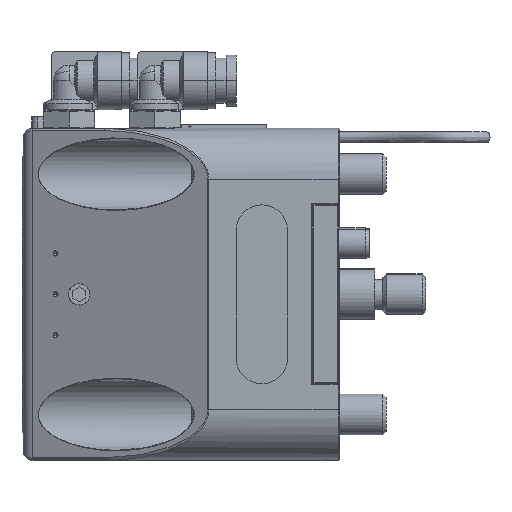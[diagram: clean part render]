
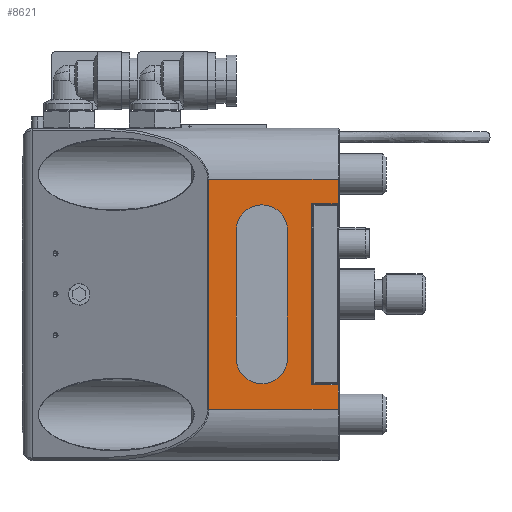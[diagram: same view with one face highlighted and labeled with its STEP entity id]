
A CAD part, left-side view. The second image highlights one B-rep face of the part: STEP entity #8621.
In plain terms, the highlighted planar face has unit normal (-1, 0, 0).
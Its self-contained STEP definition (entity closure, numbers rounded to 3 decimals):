
#277 = EDGE_CURVE ( 'NONE', #4738, #30587, #31643, .T. ) ;
#690 = VECTOR ( 'NONE', #11150, 1000. ) ;
#1051 = CARTESIAN_POINT ( 'NONE',  ( -128.699, 109.76, 192.392 ) ) ;
#1355 = VECTOR ( 'NONE', #6429, 1000. ) ;
#1632 = CARTESIAN_POINT ( 'NONE',  ( -128.699, 89.613, 177.392 ) ) ;
#2190 = CARTESIAN_POINT ( 'NONE',  ( -128.699, 84.513, 177.592 ) ) ;
#2274 = EDGE_CURVE ( 'NONE', #15999, #63976, #49450, .T. ) ;
#2372 = EDGE_CURVE ( 'NONE', #63976, #8853, #5352, .T. ) ;
#2818 = DIRECTION ( 'NONE',  ( 0., 1., 0. ) ) ;
#3380 = EDGE_CURVE ( 'NONE', #34692, #69836, #10297, .T. ) ;
#3693 = PLANE ( 'NONE',  #58207 ) ;
#4037 = EDGE_CURVE ( 'NONE', #58673, #69029, #67741, .T. ) ;
#4444 = DIRECTION ( 'NONE',  ( 0., 0., 1. ) ) ;
#4738 = VERTEX_POINT ( 'NONE', #41550 ) ;
#5352 = LINE ( 'NONE', #36554, #16254 ) ;
#5501 = CARTESIAN_POINT ( 'NONE',  ( -128.699, 89.613, 177.592 ) ) ;
#6026 = AXIS2_PLACEMENT_3D ( 'NONE', #11358, #43662, #32929 ) ;
#6039 = ORIENTED_EDGE ( 'NONE', *, *, #58706, .T. ) ;
#6429 = DIRECTION ( 'NONE',  ( 0., 0., -1. ) ) ;
#6939 = EDGE_LOOP ( 'NONE', ( #43031, #56924, #26788, #6039, #57733, #52470, #8135, #69683 ) ) ;
#7796 = EDGE_CURVE ( 'NONE', #66089, #42229, #25242, .T. ) ;
#8105 = AXIS2_PLACEMENT_3D ( 'NONE', #24006, #40126, #12830 ) ;
#8124 = CARTESIAN_POINT ( 'NONE',  ( -128.699, 84.313, 192.392 ) ) ;
#8135 = ORIENTED_EDGE ( 'NONE', *, *, #7796, .T. ) ;
#8621 = ADVANCED_FACE ( 'NONE', ( #19991, #48051 ), #3693, .F. ) ;
#8631 = EDGE_CURVE ( 'NONE', #32392, #15999, #11506, .T. ) ;
#8853 = VERTEX_POINT ( 'NONE', #48877 ) ;
#8989 = EDGE_CURVE ( 'NONE', #30587, #58673, #26719, .T. ) ;
#10297 = LINE ( 'NONE', #33649, #49300 ) ;
#10332 = DIRECTION ( 'NONE',  ( 0., 0., 1. ) ) ;
#11150 = DIRECTION ( 'NONE',  ( 0., -1., 0. ) ) ;
#11358 = CARTESIAN_POINT ( 'NONE',  ( -128.699, 99.413, 172.392 ) ) ;
#11380 = VECTOR ( 'NONE', #4444, 1000. ) ;
#11506 = LINE ( 'NONE', #13549, #54777 ) ;
#12309 = EDGE_LOOP ( 'NONE', ( #44214, #22487, #22070, #21682, #19128 ) ) ;
#12830 = DIRECTION ( 'NONE',  ( 0., 0., 1. ) ) ;
#13549 = CARTESIAN_POINT ( 'NONE',  ( -128.699, 104.413, 147.392 ) ) ;
#14648 = CIRCLE ( 'NONE', #29568, 5. ) ;
#15185 = CARTESIAN_POINT ( 'NONE',  ( -128.699, 84.513, 142.192 ) ) ;
#15599 = CARTESIAN_POINT ( 'NONE',  ( -128.699, 109.76, 182.392 ) ) ;
#15999 = VERTEX_POINT ( 'NONE', #28620 ) ;
#16254 = VECTOR ( 'NONE', #25667, 1000. ) ;
#16788 = CARTESIAN_POINT ( 'NONE',  ( -128.699, 84.313, 177.592 ) ) ;
#18330 = DIRECTION ( 'NONE',  ( -1., 0., 0. ) ) ;
#19128 = ORIENTED_EDGE ( 'NONE', *, *, #46866, .F. ) ;
#19331 = CARTESIAN_POINT ( 'NONE',  ( -128.699, 94.413, 147.392 ) ) ;
#19915 = EDGE_CURVE ( 'NONE', #42229, #4738, #57150, .T. ) ;
#19991 = FACE_OUTER_BOUND ( 'NONE', #6939, .T. ) ;
#20399 = VECTOR ( 'NONE', #54793, 1000. ) ;
#21682 = ORIENTED_EDGE ( 'NONE', *, *, #49208, .F. ) ;
#22070 = ORIENTED_EDGE ( 'NONE', *, *, #8631, .F. ) ;
#22487 = ORIENTED_EDGE ( 'NONE', *, *, #2274, .F. ) ;
#24006 = CARTESIAN_POINT ( 'NONE',  ( -128.699, 99.413, 147.392 ) ) ;
#24249 = DIRECTION ( 'NONE',  ( 0., 1., 0. ) ) ;
#24820 = LINE ( 'NONE', #1632, #64585 ) ;
#24958 = DIRECTION ( 'NONE',  ( 1., 0., 0. ) ) ;
#25242 = LINE ( 'NONE', #16788, #690 ) ;
#25667 = DIRECTION ( 'NONE',  ( 0., 0., 1. ) ) ;
#26719 = LINE ( 'NONE', #1051, #1355 ) ;
#26788 = ORIENTED_EDGE ( 'NONE', *, *, #4037, .T. ) ;
#28620 = CARTESIAN_POINT ( 'NONE',  ( -128.699, 104.413, 147.392 ) ) ;
#29568 = AXIS2_PLACEMENT_3D ( 'NONE', #40406, #18330, #51084 ) ;
#30587 = VERTEX_POINT ( 'NONE', #15599 ) ;
#31643 = LINE ( 'NONE', #67328, #57040 ) ;
#32392 = VERTEX_POINT ( 'NONE', #60093 ) ;
#32929 = DIRECTION ( 'NONE',  ( 0., 0., 1. ) ) ;
#33649 = CARTESIAN_POINT ( 'NONE',  ( -128.699, 84.313, 142.192 ) ) ;
#34692 = VERTEX_POINT ( 'NONE', #15185 ) ;
#35317 = CARTESIAN_POINT ( 'NONE',  ( -128.699, 99.413, 177.392 ) ) ;
#36554 = CARTESIAN_POINT ( 'NONE',  ( -128.699, 94.413, 147.392 ) ) ;
#36829 = CARTESIAN_POINT ( 'NONE',  ( -128.699, 84.513, 192.392 ) ) ;
#39053 = VERTEX_POINT ( 'NONE', #35317 ) ;
#39464 = DIRECTION ( 'NONE',  ( 0., 0., 1. ) ) ;
#39492 = CIRCLE ( 'NONE', #6026, 5. ) ;
#40126 = DIRECTION ( 'NONE',  ( -1., 0., 0. ) ) ;
#40406 = CARTESIAN_POINT ( 'NONE',  ( -128.699, 99.413, 172.392 ) ) ;
#40863 = DIRECTION ( 'NONE',  ( 0., 0., -1. ) ) ;
#41550 = CARTESIAN_POINT ( 'NONE',  ( -128.699, 84.513, 182.392 ) ) ;
#42229 = VERTEX_POINT ( 'NONE', #2190 ) ;
#43031 = ORIENTED_EDGE ( 'NONE', *, *, #277, .T. ) ;
#43662 = DIRECTION ( 'NONE',  ( -1., 0., 0. ) ) ;
#44214 = ORIENTED_EDGE ( 'NONE', *, *, #2372, .F. ) ;
#44405 = CARTESIAN_POINT ( 'NONE',  ( -128.699, 84.313, 137.392 ) ) ;
#46866 = EDGE_CURVE ( 'NONE', #8853, #39053, #14648, .T. ) ;
#46972 = EDGE_CURVE ( 'NONE', #69836, #66089, #24820, .T. ) ;
#48051 = FACE_BOUND ( 'NONE', #12309, .T. ) ;
#48877 = CARTESIAN_POINT ( 'NONE',  ( -128.699, 94.413, 172.392 ) ) ;
#49208 = EDGE_CURVE ( 'NONE', #39053, #32392, #39492, .T. ) ;
#49300 = VECTOR ( 'NONE', #55916, 1000. ) ;
#49450 = CIRCLE ( 'NONE', #8105, 5. ) ;
#49470 = CARTESIAN_POINT ( 'NONE',  ( -128.699, 84.513, 137.392 ) ) ;
#51084 = DIRECTION ( 'NONE',  ( 0., 0., 1. ) ) ;
#52470 = ORIENTED_EDGE ( 'NONE', *, *, #46972, .T. ) ;
#54777 = VECTOR ( 'NONE', #40863, 1000. ) ;
#54793 = DIRECTION ( 'NONE',  ( 0., -1., 0. ) ) ;
#55916 = DIRECTION ( 'NONE',  ( 0., 1., 0. ) ) ;
#56924 = ORIENTED_EDGE ( 'NONE', *, *, #8989, .T. ) ;
#57040 = VECTOR ( 'NONE', #2818, 1000. ) ;
#57150 = LINE ( 'NONE', #36829, #11380 ) ;
#57733 = ORIENTED_EDGE ( 'NONE', *, *, #3380, .T. ) ;
#58207 = AXIS2_PLACEMENT_3D ( 'NONE', #8124, #24958, #24249 ) ;
#58673 = VERTEX_POINT ( 'NONE', #64096 ) ;
#58706 = EDGE_CURVE ( 'NONE', #69029, #34692, #65559, .T. ) ;
#59679 = VECTOR ( 'NONE', #10332, 1000. ) ;
#60093 = CARTESIAN_POINT ( 'NONE',  ( -128.699, 104.413, 172.392 ) ) ;
#63976 = VERTEX_POINT ( 'NONE', #19331 ) ;
#64096 = CARTESIAN_POINT ( 'NONE',  ( -128.699, 109.76, 137.392 ) ) ;
#64330 = CARTESIAN_POINT ( 'NONE',  ( -128.699, 84.513, 192.392 ) ) ;
#64585 = VECTOR ( 'NONE', #39464, 1000. ) ;
#65542 = CARTESIAN_POINT ( 'NONE',  ( -128.699, 89.613, 142.192 ) ) ;
#65559 = LINE ( 'NONE', #64330, #59679 ) ;
#66089 = VERTEX_POINT ( 'NONE', #5501 ) ;
#67328 = CARTESIAN_POINT ( 'NONE',  ( -128.699, 84.313, 182.392 ) ) ;
#67741 = LINE ( 'NONE', #44405, #20399 ) ;
#69029 = VERTEX_POINT ( 'NONE', #49470 ) ;
#69683 = ORIENTED_EDGE ( 'NONE', *, *, #19915, .T. ) ;
#69836 = VERTEX_POINT ( 'NONE', #65542 ) ;
